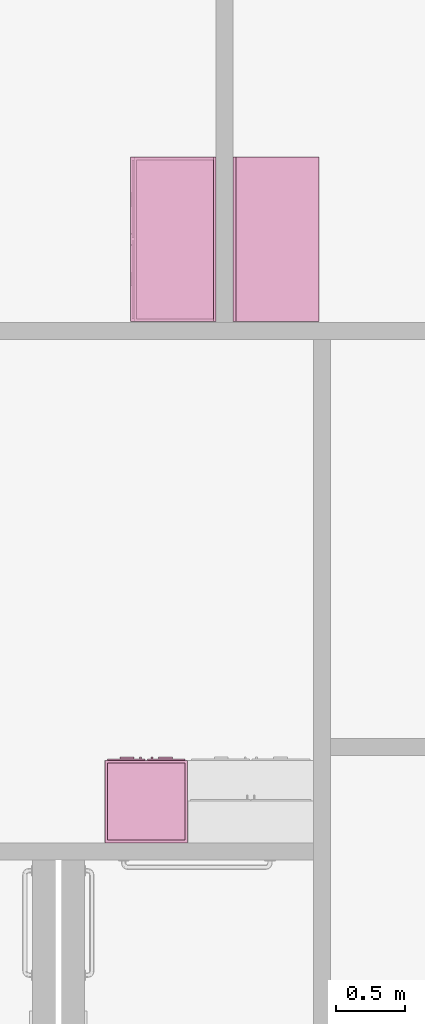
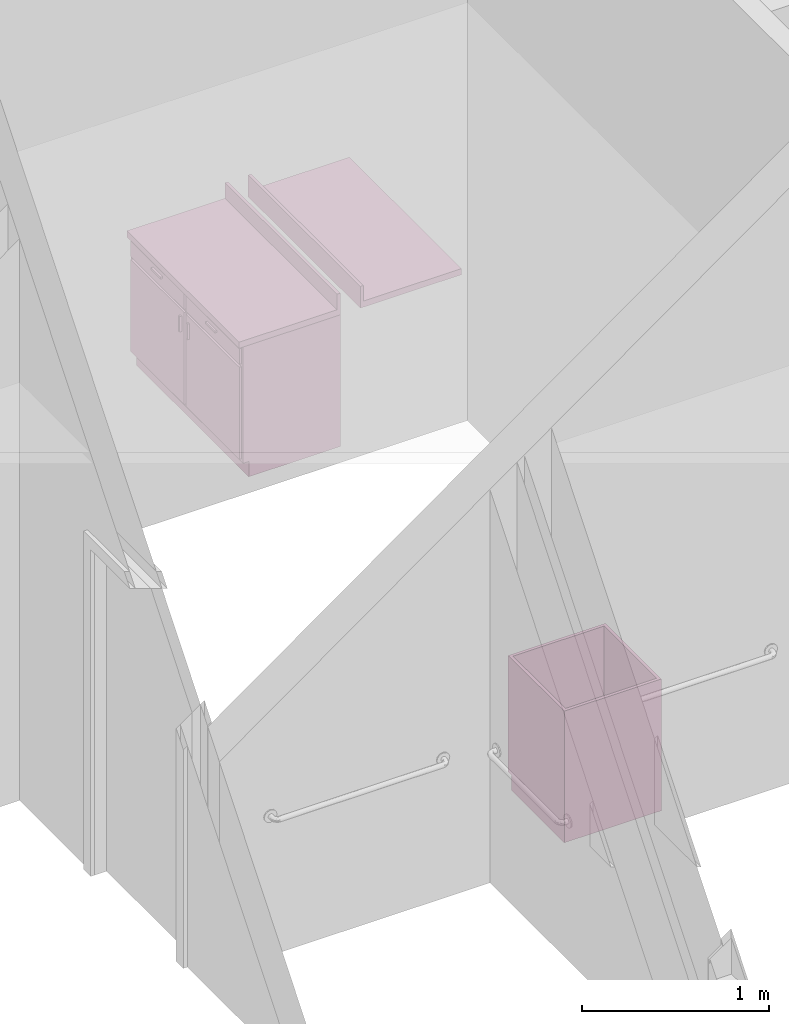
# One storey, part 73 of 82: 4 furnishings, 2 openings.
"""IFC2X3 building model written with IfcOpenShell, lengths in metres."""

from ifc_helpers import new_model, entity, si_unit, converted_unit, frame, frame_2d, origin, place, context, project, spatial, polyline, circle_curve, parameter, trimmed, segment, composite_curve, outline, extrude, face_set, surface_model, source, transform, mapped, type_object, type_shapes, element, save


model = new_model("IFC2X3")

# Units and contexts
model_context = context("Model", 3, precision=1e-09, world=origin())
plan_context = context("Plan", 3, precision=1e-09, world=origin())
ifc_project = project(units=[si_unit("LENGTHUNIT", "METRE"), si_unit("AREAUNIT", "SQUARE_METRE"), si_unit("VOLUMEUNIT", "CUBIC_METRE"), converted_unit("PLANEANGLEUNIT", "DEGREE", entity("IfcRatioMeasure", 0.01745329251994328), si_unit("PLANEANGLEUNIT", "RADIAN"), dimensions=[0, 0, 0, 0, 0, 0, 0]), si_unit("TIMEUNIT", "SECOND")], contexts=[model_context, plan_context])

# Site, building, storey, space
site_placement = place(None, origin())
site = spatial("IfcSite", under=ifc_project, at=site_placement, Name="Default", CompositionType="ELEMENT")
building_placement = place(site_placement, origin())
building = spatial("IfcBuilding", under=site, at=building_placement, CompositionType="ELEMENT")
storey_placement = place(building_placement, origin())
storey = spatial("IfcBuildingStorey", under=building, at=storey_placement, Name="First Floor", CompositionType="ELEMENT", Elevation=-3.531500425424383e-13)
space_1_placement = place(storey_placement, origin())
space_1 = spatial("IfcSpace", under=storey, at=space_1_placement, Name="1D32", CompositionType="ELEMENT", InteriorOrExteriorSpace="INTERNAL")

# Furnishing, opening
furniture_type_1 = type_object("IfcFurnitureType", Name="600mm Depth", AssemblyPlace="NOTDEFINED")
shared_shape_1 = source(origin(), model_context, "Body", "SweptSolid", [
    extrude(outline(polyline([(-0.0605333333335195, -0.2146833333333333), (0.08106666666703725, -0.2146833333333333), (0.08106666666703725, -0.1956333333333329), (-0.02053333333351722, -0.1956333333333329), (-0.02053333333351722, 0.4103166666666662), (-0.0605333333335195, 0.4103166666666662), (-0.0605333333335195, -0.2146833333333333)])), frame((-1.200462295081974, -0.2146833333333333, 0.920533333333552), z_axis=(1.0, 0.0, 0.0), x_axis=(0.0, 0.0, 1.0)), (0.0, 0.0, 1.0), 1.200000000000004),
])
type_shapes(furniture_type_1, [shared_shape_1])
furnishing_1_placement = place(space_1_placement, frame((-35.46000000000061, 19.89046233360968, 0.0), z_axis=(0.0, 0.0, 1.0), x_axis=(0.0, 1.0, 0.0)))
furnishing_1 = element("IfcFurnishingElement", 1, at=furnishing_1_placement, inside=space_1, type_object=furniture_type_1, Name="M_Counter Top w Sink Hole:600mm Depth:600mm Depth", ObjectType="600mm Depth", context=model_context, shape_type="MappedRepresentation", body=[
    mapped(shared_shape_1, transform((0.0, 0.0, 0.0), scale=1.0)),
])
opening_1_placement = place(space_1_placement, frame((-35.46000000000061, 19.89046233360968, 0.0), z_axis=(0.0, 0.0, 1.0), x_axis=(0.0, 1.0, 0.0)))
element("IfcOpeningElement", 2, at=opening_1_placement, cuts=furnishing_1, Name="M_Counter Top w Sink Hole:600mm Depth:600mm Depth:1", ObjectType="Opening", context=model_context, shape_type="SweptSolid", body=[
    extrude(outline(composite_curve([segment(polyline([(-0.2554000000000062, -0.208329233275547), (0.255399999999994, -0.2083292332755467)]), True, "CONTINUOUS"), segment(trimmed(circle_curve(frame_2d((0.2553999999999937, -0.1575292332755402), x_axis=(1.0, 0.0)), 0.05080000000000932), [parameter(270.0000000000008)], [parameter(1.068666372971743e-12)], True, "PARAMETER"), True, "CONTINUOUS"), segment(polyline([(0.306200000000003, -0.1575292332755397), (0.3062000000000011, 0.1575292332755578)]), True, "CONTINUOUS"), segment(trimmed(circle_curve(frame_2d((0.2554000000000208, 0.1575292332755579), x_axis=(1.0, 0.0)), 0.05079999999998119), [parameter(359.9999999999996)], [parameter(90.0000000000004)], True, "PARAMETER"), True, "CONTINUOUS"), segment(polyline([(0.2554000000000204, 0.2083292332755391), (-0.2554000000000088, 0.2083292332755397)]), True, "CONTINUOUS"), segment(trimmed(circle_curve(frame_2d((-0.2554000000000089, 0.1575292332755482), x_axis=(1.0, 0.0)), 0.0507999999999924), [parameter(90.00000000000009)], [parameter(179.9999999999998)], True, "PARAMETER"), True, "CONTINUOUS"), segment(polyline([(-0.3062000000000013, 0.157529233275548), (-0.3062000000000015, -0.1575292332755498)]), True, "CONTINUOUS"), segment(trimmed(circle_curve(frame_2d((-0.2554000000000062, -0.15752923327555), x_axis=(1.0, 0.0)), 0.05079999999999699), [parameter(179.9999999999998)], [parameter(269.9999999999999)], True, "PARAMETER"), True, "CONTINUOUS")], self_intersect=False)), frame((-0.3653589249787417, 0.6004622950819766, 0.900000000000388), z_axis=(0.0, 0.0, -1.0), x_axis=(0.0, -1.0, 0.0)), (0.0, 0.0, 1.0), 0.04000000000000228),
])

# Space
space_2_placement = place(storey_placement, origin())
space_2 = spatial("IfcSpace", under=storey, at=space_2_placement, Name="1E11", CompositionType="ELEMENT", InteriorOrExteriorSpace="INTERNAL")

# Furnishing
furniture_type_2 = type_object("IfcFurnitureType", Name="600mm", AssemblyPlace="NOTDEFINED")
shared_shape_2 = source(origin(), model_context, "Body", "SurfaceModel", [
    surface_model("IfcFaceBasedSurfaceModel", [(0.5809499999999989, 0.0444500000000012, 0.86000000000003), (0.5809499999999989, 0.0444500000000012, 0.09999999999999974), (0.01905000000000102, 0.0444500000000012, 0.09999999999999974), (0.01905000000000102, 0.0444500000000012, 0.86000000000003), (0.5999999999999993, 0.02540000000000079, 0.8600000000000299), (0.0, 0.02540000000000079, 0.8600000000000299), (0.5999999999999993, 0.02540000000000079, 0.09999999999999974), (0.0, 0.02540000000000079, 0.0999999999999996), (0.01905000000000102, 0.6063499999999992, 0.86000000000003), (0.01905000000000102, 0.6063499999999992, 0.09999999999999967), (0.01905000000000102, 0.06040000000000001, 0.09999999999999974), (0.0, 0.6253999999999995, 0.8600000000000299), (0.0, 0.6254000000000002, 0.0), (0.0, 0.06040000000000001, 0.0), (0.0, 0.06040000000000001, 0.09999999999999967), (0.5809499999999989, 0.6063499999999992, 0.86000000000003), (0.5809499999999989, 0.6063499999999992, 0.09999999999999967), (0.5999999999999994, 0.6253999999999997, 0.8600000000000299), (0.5999999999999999, 0.6253999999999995, 0.0), (0.5809499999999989, 0.06040000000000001, 0.09999999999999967), (0.5999999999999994, 0.06040000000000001, 0.09999999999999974), (0.5999999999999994, 0.06040000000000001, 0.0), (0.2103250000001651, 0.0, 0.8155500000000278), (0.2103250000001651, 0.0, 0.8028500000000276), (0.1087250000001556, 0.0, 0.8028500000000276), (0.1087250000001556, 0.0, 0.8155500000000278), (0.4912750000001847, 0.0, 0.8155500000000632), (0.4912750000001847, 0.0, 0.8028500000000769), (0.3896750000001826, 0.0, 0.8028500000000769), (0.3896750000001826, 0.0, 0.8155500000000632), (0.2650750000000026, 0.0, 0.6822000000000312), (0.2650750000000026, 0.0, 0.5806000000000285), (0.2523750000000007, 0.0, 0.5806000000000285), (0.2523750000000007, 0.0, 0.6822000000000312), (0.3476249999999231, 0.0, 0.6822000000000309), (0.3476249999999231, 0.0, 0.5806000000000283), (0.3349249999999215, 0.0, 0.5806000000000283), (0.3349249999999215, 0.0, 0.6822000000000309), (0.2103250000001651, 0.0127000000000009, 0.8155500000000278), (0.2103250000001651, 0.0127000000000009, 0.8028500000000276), (0.1087250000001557, 0.01270000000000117, 0.8028500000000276), (0.1087250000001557, 0.01270000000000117, 0.8155500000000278), (0.4912750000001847, 0.01269999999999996, 0.8155500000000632), (0.4912750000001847, 0.01269999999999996, 0.8028500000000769), (0.3896750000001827, 0.01270000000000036, 0.8028500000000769), (0.3896750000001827, 0.01270000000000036, 0.8155500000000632), (0.2650750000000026, 0.01270000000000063, 0.6822000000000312), (0.2650750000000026, 0.01270000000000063, 0.5806000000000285), (0.2523750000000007, 0.01270000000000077, 0.5806000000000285), (0.2523750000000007, 0.01270000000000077, 0.6822000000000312), (0.3476249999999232, 0.0127000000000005, 0.6822000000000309), (0.3476249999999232, 0.0127000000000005, 0.5806000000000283), (0.3349249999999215, 0.0127000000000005, 0.5806000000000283), (0.3349249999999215, 0.0127000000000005, 0.6822000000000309), (0.2904749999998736, 0.01270000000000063, 0.8409500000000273), (0.2904749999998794, 0.01270000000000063, 0.7393500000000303), (0.01905000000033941, 0.01270000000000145, 0.7393500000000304), (0.01905000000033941, 0.01270000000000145, 0.8409500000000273), (0.5809500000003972, 0.01269999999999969, 0.8409500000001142), (0.5809500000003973, 0.01269999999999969, 0.7393500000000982), (0.3095249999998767, 0.0127000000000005, 0.7393500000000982), (0.309524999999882, 0.0127000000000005, 0.8409500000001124), (0.2904749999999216, 0.01270000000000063, 0.7203000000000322), (0.290474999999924, 0.01270000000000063, 0.1190499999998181), (0.01905000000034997, 0.01270000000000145, 0.1190499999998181), (0.01905000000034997, 0.01270000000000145, 0.7203000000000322), (0.5809500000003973, 0.01269999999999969, 0.7203000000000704), (0.5809500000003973, 0.01269999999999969, 0.1190499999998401), (0.3095249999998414, 0.0127000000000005, 0.1190499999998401), (0.3095249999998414, 0.0127000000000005, 0.7203000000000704), (0.2904749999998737, 0.02540000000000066, 0.8409500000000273), (0.2904749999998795, 0.02540000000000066, 0.7393500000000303), (0.01905000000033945, 0.02540000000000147, 0.7393500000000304), (0.01905000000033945, 0.02540000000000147, 0.8409500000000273), (0.5809500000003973, 0.02539999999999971, 0.8409500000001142), (0.5809500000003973, 0.02539999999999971, 0.7393500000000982), (0.3095249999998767, 0.02540000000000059, 0.7393500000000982), (0.309524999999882, 0.02540000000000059, 0.8409500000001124), (0.2904749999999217, 0.02540000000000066, 0.7203000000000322), (0.290474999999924, 0.02540000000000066, 0.1190499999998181), (0.01905000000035, 0.02540000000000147, 0.1190499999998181), (0.01905000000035, 0.02540000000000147, 0.7203000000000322), (0.5809500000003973, 0.02539999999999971, 0.7203000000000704), (0.5809500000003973, 0.02539999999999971, 0.1190499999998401), (0.3095249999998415, 0.02540000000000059, 0.1190499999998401), (0.3095249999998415, 0.02540000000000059, 0.7203000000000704), (0.580949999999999, 0.6063499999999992, 0.1190499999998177), (0.580949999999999, 0.04445000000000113, 0.1190499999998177), (0.01905000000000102, 0.04445000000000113, 0.1190499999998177), (0.01905000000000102, 0.6063499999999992, 0.1190499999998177), (0.580949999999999, 0.6063499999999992, 0.09999999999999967), (0.580949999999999, 0.04445000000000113, 0.09999999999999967), (0.01905000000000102, 0.04445000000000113, 0.09999999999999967)], [face_set([[[0, 1, 2, 3]], [[0, 4, 5, 3]], [[4, 6, 7, 5]], [[2, 1, 6, 7]], [[3, 8, 9, 10, 2]], [[5, 11, 8, 3]], [[7, 5, 11, 12, 13, 14]], [[2, 7, 14, 10]], [[8, 15, 16, 9]], [[11, 17, 15, 8]], [[12, 11, 17, 18]], [[1, 19, 16, 15, 0]], [[0, 15, 17, 4]], [[4, 6, 20, 21, 18, 17]], [[6, 1, 19, 20]], [[10, 9, 16, 19]], [[18, 21, 13, 12]], [[13, 14, 10, 19, 20, 21]]]), face_set([[[22, 23, 24, 25]], [[26, 27, 28, 29]], [[30, 31, 32, 33]], [[34, 35, 36, 37]], [[38, 39, 40, 41]], [[42, 43, 44, 45]], [[46, 47, 48, 49]], [[50, 51, 52, 53]], [[25, 41, 38, 22]], [[24, 40, 41, 25]], [[23, 24, 40, 39]], [[22, 23, 39, 38]], [[29, 45, 42, 26]], [[28, 44, 45, 29]], [[27, 28, 44, 43]], [[26, 27, 43, 42]], [[33, 49, 46, 30]], [[32, 48, 49, 33]], [[31, 32, 48, 47]], [[30, 31, 47, 46]], [[37, 53, 50, 34]], [[36, 52, 53, 37]], [[35, 36, 52, 51]], [[34, 35, 51, 50]]]), face_set([[[54, 55, 56, 57]], [[58, 59, 60, 61]], [[62, 63, 64, 65]], [[66, 67, 68, 69]], [[70, 71, 72, 73]], [[74, 75, 76, 77]], [[78, 79, 80, 81]], [[82, 83, 84, 85]], [[57, 73, 70, 54]], [[56, 57, 73, 72]], [[55, 56, 72, 71]], [[54, 55, 71, 70]], [[61, 77, 74, 58]], [[60, 76, 77, 61]], [[59, 60, 76, 75]], [[58, 59, 75, 74]], [[65, 81, 78, 62]], [[64, 65, 81, 80]], [[63, 64, 80, 79]], [[62, 63, 79, 78]], [[69, 85, 82, 66]], [[68, 84, 85, 69]], [[67, 68, 84, 83]], [[66, 67, 83, 82]]]), face_set([[[86, 87, 88, 89]], [[90, 91, 92, 9]], [[89, 86, 90, 9]], [[88, 89, 9, 92]], [[87, 91, 92, 88]], [[86, 87, 91, 90]]])]),
])
type_shapes(furniture_type_2, [shared_shape_2])
furnishing_2_placement = place(space_2_placement, frame((-35.79400000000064, 15.51539999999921, 0.0), z_axis=(0.0, 0.0, 1.0), x_axis=(-1.0, 0.0, 0.0)))
element("IfcFurnishingElement", 3, at=furnishing_2_placement, inside=space_2, type_object=furniture_type_2, Name="M_Base Cabinet-Double Door & 2 Drawer:600mm:600mm", ObjectType="600mm", context=model_context, shape_type="MappedRepresentation", body=[
    mapped(shared_shape_2, transform((0.0, 0.0, 0.0), scale=1.0)),
])

# Space
space_3_placement = place(storey_placement, origin())
space_3 = spatial("IfcSpace", under=storey, at=space_3_placement, Name="1D28", CompositionType="ELEMENT", InteriorOrExteriorSpace="INTERNAL")

# Furnishing, opening
furniture_type_3 = type_object("IfcFurnitureType", Name="600mm Depth", AssemblyPlace="NOTDEFINED")
shared_shape_3 = source(origin(), model_context, "Body", "SweptSolid", [
    extrude(outline(polyline([(-0.2146833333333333, -0.06053333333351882), (0.4103166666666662, -0.06053333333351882), (0.4103166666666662, -0.02053333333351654), (-0.1956333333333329, -0.02053333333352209), (-0.1956333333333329, 0.08106666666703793), (-0.2146833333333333, 0.08106666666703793), (-0.2146833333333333, -0.06053333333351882)])), frame((-1.200462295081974, 0.2146833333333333, 0.9205333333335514), z_axis=(1.0, 0.0, 0.0), x_axis=(0.0, 1.0, 0.0)), (0.0, 0.0, 1.0), 1.200000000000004),
])
type_shapes(furniture_type_3, [shared_shape_3])
furnishing_3_placement = place(space_3_placement, frame((-35.58400000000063, 19.89046233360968, 0.0), z_axis=(0.0, 0.0, 1.0), x_axis=(0.0, 1.0, 0.0)))
furnishing_3 = element("IfcFurnishingElement", 4, at=furnishing_3_placement, inside=space_3, type_object=furniture_type_3, Name="M_Counter Top w Sink Hole:600mm Depth:600mm Depth", ObjectType="600mm Depth", context=model_context, shape_type="MappedRepresentation", body=[
    mapped(shared_shape_3, transform((0.0, 0.0, 0.0), scale=1.0)),
])
opening_2_placement = place(space_3_placement, frame((-35.58400000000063, 19.89046233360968, 0.0), z_axis=(0.0, 0.0, 1.0), x_axis=(0.0, 1.0, 0.0)))
element("IfcOpeningElement", 5, at=opening_2_placement, cuts=furnishing_3, Name="M_Counter Top w Sink Hole:600mm Depth:600mm Depth:1", ObjectType="Opening", context=model_context, shape_type="SweptSolid", body=[
    extrude(outline(composite_curve([segment(trimmed(circle_curve(frame_2d((0.2553999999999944, -0.1575292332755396), x_axis=(1.0, 0.0)), 0.05080000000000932), [parameter(269.9999999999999)], [parameter(3.562221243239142e-13)], True, "PARAMETER"), True, "CONTINUOUS"), segment(polyline([(0.3062000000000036, -0.1575292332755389), (0.3062000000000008, 0.1575292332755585)]), True, "CONTINUOUS"), segment(trimmed(circle_curve(frame_2d((0.2554000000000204, 0.1575292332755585), x_axis=(1.0, 0.0)), 0.05079999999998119), [parameter(4.071109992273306e-13)], [parameter(90.00000000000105)], True, "PARAMETER"), True, "CONTINUOUS"), segment(polyline([(0.2554000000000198, 0.2083292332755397), (-0.2554000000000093, 0.208329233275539)]), True, "CONTINUOUS"), segment(trimmed(circle_curve(frame_2d((-0.2554000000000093, 0.1575292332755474), x_axis=(1.0, 0.0)), 0.0507999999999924), [parameter(90.0000000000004)], [parameter(180.0000000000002)], True, "PARAMETER"), True, "CONTINUOUS"), segment(polyline([(-0.3062000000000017, 0.1575292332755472), (-0.3062000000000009, -0.1575292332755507)]), True, "CONTINUOUS"), segment(trimmed(circle_curve(frame_2d((-0.2554000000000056, -0.1575292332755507), x_axis=(1.0, 0.0)), 0.05079999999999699), [parameter(179.9999999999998)], [parameter(270.0000000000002)], True, "PARAMETER"), True, "CONTINUOUS"), segment(polyline([(-0.2554000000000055, -0.2083292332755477), (0.2553999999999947, -0.2083292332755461)]), True, "CONTINUOUS")], self_intersect=False)), frame((0.3653589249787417, 0.6004622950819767, 0.8600000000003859), z_axis=(0.0, 0.0, 1.0), x_axis=(0.0, -1.0, 0.0)), (0.0, 0.0, 1.0), 0.04000000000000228),
])

# Furnishing
furniture_type_4 = type_object("IfcFurnitureType", Name="1200mm", AssemblyPlace="NOTDEFINED")
shared_shape_4 = source(origin(), model_context, "Body", "SurfaceModel", [
    surface_model("IfcFaceBasedSurfaceModel", [(1.180949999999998, 0.5809499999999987, 0.8600000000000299), (0.01905000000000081, 0.5809499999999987, 0.8600000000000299), (0.01905000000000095, 0.5809499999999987, 0.09999999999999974), (1.180949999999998, 0.5809499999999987, 0.09999999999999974), (0.0, 0.5999999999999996, 0.8600000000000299), (1.2, 0.5999999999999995, 0.8600000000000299), (0.0, 0.5999999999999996, 0.09999999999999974), (1.2, 0.5999999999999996, 0.0999999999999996), (0.01905000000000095, 0.5649999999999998, 0.09999999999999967), (0.01905000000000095, 0.019050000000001, 0.09999999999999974), (0.01905000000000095, 0.019050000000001, 0.8600000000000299), (0.0, 0.0, 0.8600000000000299), (0.0, 0.0, 0.0), (0.0, 0.5649999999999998, 0.0), (0.0, 0.5649999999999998, 0.09999999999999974), (1.180949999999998, 0.01905000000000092, 0.09999999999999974), (1.180949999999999, 0.01905000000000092, 0.8600000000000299), (1.2, 0.0, 0.8600000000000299), (1.2, 0.0, 0.0), (1.180949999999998, 0.5649999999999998, 0.09999999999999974), (1.2, 0.5649999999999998, 0.0), (1.2, 0.5649999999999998, 0.0999999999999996), (0.3603250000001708, 0.6253999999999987, 0.8155500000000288), (0.258725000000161, 0.6253999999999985, 0.8155500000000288), (0.2587250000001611, 0.6253999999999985, 0.8028500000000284), (0.3603250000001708, 0.6253999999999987, 0.8028500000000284), (0.9412750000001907, 0.6254000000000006, 0.8155500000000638), (0.8396750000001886, 0.6254000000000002, 0.8155500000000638), (0.8396750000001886, 0.6254000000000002, 0.8028500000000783), (0.9412750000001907, 0.6254000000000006, 0.8028500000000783), (0.5650750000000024, 0.6253999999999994, 0.6822000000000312), (0.5523750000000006, 0.6253999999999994, 0.6822000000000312), (0.5523750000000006, 0.6253999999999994, 0.5806000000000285), (0.5650750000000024, 0.6253999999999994, 0.5806000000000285), (0.6476249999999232, 0.6253999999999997, 0.6822000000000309), (0.6349249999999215, 0.6253999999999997, 0.6822000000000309), (0.6349249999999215, 0.6253999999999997, 0.5806000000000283), (0.6476249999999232, 0.6253999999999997, 0.5806000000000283), (0.3603250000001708, 0.6126999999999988, 0.8155500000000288), (0.2587250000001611, 0.6126999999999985, 0.8155500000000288), (0.2587250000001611, 0.6126999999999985, 0.8028500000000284), (0.3603250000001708, 0.6126999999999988, 0.8028500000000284), (0.9412750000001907, 0.6127000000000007, 0.8155500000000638), (0.8396750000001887, 0.6127000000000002, 0.8155500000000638), (0.8396750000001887, 0.6127000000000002, 0.8028500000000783), (0.9412750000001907, 0.6127000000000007, 0.8028500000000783), (0.5650750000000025, 0.6126999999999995, 0.6822000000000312), (0.5523750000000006, 0.6126999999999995, 0.6822000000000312), (0.5523750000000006, 0.6126999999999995, 0.5806000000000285), (0.5650750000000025, 0.6126999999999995, 0.5806000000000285), (0.6476249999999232, 0.6126999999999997, 0.6822000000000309), (0.6349249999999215, 0.6126999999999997, 0.6822000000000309), (0.6349249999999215, 0.6126999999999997, 0.5806000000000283), (0.6476249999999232, 0.6126999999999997, 0.5806000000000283), (0.5904749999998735, 0.6126999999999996, 0.8409500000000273), (0.01905000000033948, 0.6126999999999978, 0.8409500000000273), (0.01905000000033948, 0.6126999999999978, 0.7393500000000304), (0.5904749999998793, 0.6126999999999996, 0.7393500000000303), (1.180950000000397, 0.6127000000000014, 0.8409500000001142), (0.6095249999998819, 0.6126999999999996, 0.8409500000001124), (0.6095249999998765, 0.6126999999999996, 0.7393500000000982), (1.180950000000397, 0.6127000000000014, 0.7393500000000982), (0.5904749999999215, 0.6126999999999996, 0.7203000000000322), (0.01905000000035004, 0.6126999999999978, 0.7203000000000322), (0.01905000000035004, 0.6126999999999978, 0.1190499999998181), (0.5904749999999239, 0.6126999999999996, 0.1190499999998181), (1.180950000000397, 0.6127000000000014, 0.7203000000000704), (0.6095249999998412, 0.6126999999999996, 0.7203000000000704), (0.6095249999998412, 0.6126999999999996, 0.1190499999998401), (1.180950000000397, 0.6127000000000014, 0.1190499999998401), (0.5904749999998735, 0.5999999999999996, 0.8409500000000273), (0.01905000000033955, 0.5999999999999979, 0.8409500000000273), (0.01905000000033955, 0.5999999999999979, 0.7393500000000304), (0.5904749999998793, 0.5999999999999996, 0.7393500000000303), (1.180950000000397, 0.6000000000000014, 0.8409500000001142), (0.6095249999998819, 0.5999999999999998, 0.8409500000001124), (0.6095249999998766, 0.5999999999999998, 0.7393500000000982), (1.180950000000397, 0.6000000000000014, 0.7393500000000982), (0.5904749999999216, 0.5999999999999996, 0.7203000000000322), (0.01905000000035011, 0.5999999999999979, 0.7203000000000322), (0.01905000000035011, 0.5999999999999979, 0.1190499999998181), (0.5904749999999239, 0.5999999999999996, 0.1190499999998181), (1.180950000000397, 0.6000000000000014, 0.7203000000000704), (0.6095249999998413, 0.5999999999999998, 0.7203000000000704), (0.6095249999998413, 0.5999999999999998, 0.1190499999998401), (1.180950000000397, 0.6000000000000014, 0.1190499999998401), (1.180949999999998, 0.019050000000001, 0.1190499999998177), (0.01905000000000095, 0.019050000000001, 0.1190499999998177), (0.01905000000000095, 0.5809499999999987, 0.1190499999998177), (1.180949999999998, 0.5809499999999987, 0.1190499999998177), (1.180949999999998, 0.01905000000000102, 0.09999999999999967), (0.01905000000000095, 0.019050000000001, 0.09999999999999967), (0.01905000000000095, 0.5809499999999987, 0.09999999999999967), (1.180949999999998, 0.5809499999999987, 0.09999999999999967)], [face_set([[[0, 1, 2, 3]], [[0, 1, 4, 5]], [[5, 4, 6, 7]], [[2, 6, 7, 3]], [[1, 2, 8, 9, 10]], [[4, 1, 10, 11]], [[6, 4, 11, 12, 13, 14]], [[2, 8, 14, 6]], [[10, 9, 15, 16]], [[11, 10, 16, 17]], [[12, 18, 17, 11]], [[3, 0, 16, 15, 19]], [[0, 5, 17, 16]], [[5, 17, 18, 20, 21, 7]], [[7, 21, 19, 3]], [[8, 19, 15, 9]], [[18, 12, 13, 20]], [[13, 20, 21, 19, 8, 14]]]), face_set([[[22, 23, 24, 25]], [[26, 27, 28, 29]], [[30, 31, 32, 33]], [[34, 35, 36, 37]], [[38, 39, 40, 41]], [[42, 43, 44, 45]], [[46, 47, 48, 49]], [[50, 51, 52, 53]], [[23, 22, 38, 39]], [[24, 23, 39, 40]], [[25, 41, 40, 24]], [[22, 38, 41, 25]], [[27, 26, 42, 43]], [[28, 27, 43, 44]], [[29, 45, 44, 28]], [[26, 42, 45, 29]], [[31, 30, 46, 47]], [[32, 31, 47, 48]], [[33, 49, 48, 32]], [[30, 46, 49, 33]], [[35, 34, 50, 51]], [[36, 35, 51, 52]], [[37, 53, 52, 36]], [[34, 50, 53, 37]]]), face_set([[[54, 55, 56, 57]], [[58, 59, 60, 61]], [[62, 63, 64, 65]], [[66, 67, 68, 69]], [[70, 71, 72, 73]], [[74, 75, 76, 77]], [[78, 79, 80, 81]], [[82, 83, 84, 85]], [[55, 54, 70, 71]], [[56, 72, 71, 55]], [[57, 73, 72, 56]], [[54, 70, 73, 57]], [[59, 58, 74, 75]], [[60, 59, 75, 76]], [[61, 77, 76, 60]], [[58, 74, 77, 61]], [[63, 62, 78, 79]], [[64, 80, 79, 63]], [[65, 81, 80, 64]], [[62, 78, 81, 65]], [[67, 66, 82, 83]], [[68, 67, 83, 84]], [[69, 85, 84, 68]], [[66, 82, 85, 69]]]), face_set([[[86, 87, 88, 89]], [[90, 91, 92, 93]], [[87, 91, 90, 86]], [[88, 92, 91, 87]], [[89, 88, 92, 93]], [[86, 90, 93, 89]]])]),
])
type_shapes(furniture_type_4, [shared_shape_4])
furnishing_4_placement = place(space_3_placement, frame((-35.58375091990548, 18.69000003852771, 0.0), z_axis=(0.0, 0.0, 1.0), x_axis=(0.0, 1.0, 0.0)))
element("IfcFurnishingElement", 6, at=furnishing_4_placement, inside=space_3, type_object=furniture_type_4, Name="M_Base Cabinet-Double Door & 2 Drawer:1200mm:1200mm", ObjectType="1200mm", context=model_context, shape_type="MappedRepresentation", body=[
    mapped(shared_shape_4, transform((0.0, 0.0, 0.0), scale=1.0)),
])

save(model, "model.ifc")
